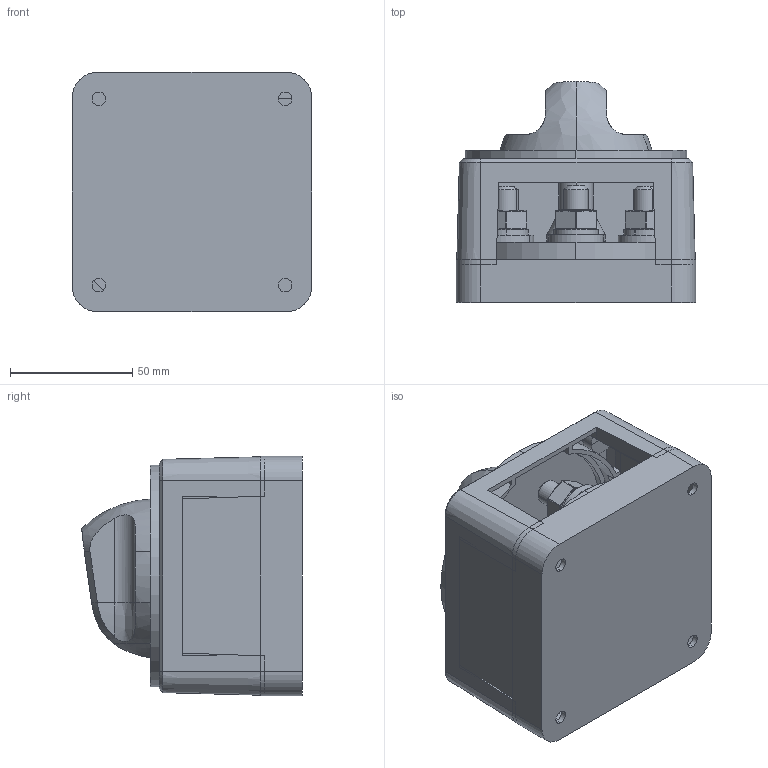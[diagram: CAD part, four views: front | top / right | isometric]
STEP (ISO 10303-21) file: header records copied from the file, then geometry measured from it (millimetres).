
FILE_DESCRIPTION (( 'STEP AP214' ), '1' );
FILE_NAME ('771-S-EZ Customer Model.STEP', '2020-07-29T01:15:47', ( '' ), ( '' ), 'SwSTEP 2.0', 'SolidWorks 2018', '' );
FILE_SCHEMA (( 'AUTOMOTIVE_DESIGN' ));
Length unit declared in the file: millimetre
Products named in the file (12): MSPM-174_77X-TERM-PLATE-SEL-EZ; MSPM-176_77X-SHAFT-EZ-KNOB; MSPM-181_77X-EZ-MAIN-COVER; 771-S-EZ Customer Model; MSPM-180_77X-EZ-MOUNTING-BODY; MSC-173_M10_SPRING-LOCK-WASHER; MSC-161_M10-TERMINAL_RIVETED; MSPM-182_77X-EZ-COVER-FASTENER; MSPM-179_77X-EZ-SIDE-PANEL; MSPM-151_77X-KNOB-RED1; MSPM-178COMP_77X-SEL-EZ-TMPTASS_ASM; MSC-174_M10-NUT-DIN934
Assembly tree (20 placements, depth 3):
  771-S-EZ Customer Model
    MSPM-180_77X-EZ-MOUNTING-BODY
    MSPM-178COMP_77X-SEL-EZ-TMPTASS_ASM
      MSPM-174_77X-TERM-PLATE-SEL-EZ
      MSC-161_M10-TERMINAL_RIVETED  x3
      MSC-173_M10_SPRING-LOCK-WASHER  x3
      MSC-174_M10-NUT-DIN934  x3
    MSPM-181_77X-EZ-MAIN-COVER
    MSPM-182_77X-EZ-COVER-FASTENER  x2
    MSPM-176_77X-SHAFT-EZ-KNOB
    MSPM-151_77X-KNOB-RED1
    MSPM-179_77X-EZ-SIDE-PANEL  x3
Bounding box: 97.8 x 90.25 x 97.8 mm (x, y, z)
Volume: 310774.1 mm3; surface area: 125284.6 mm2
Topology: 19 solids, 19 shells, 564 faces, 1400 edges, 886 vertices
Faces by surface type: plane 271, cylinder 119, bspline 110, cone 52, torus 12
Entity records: 17118 total; most frequent: CARTESIAN_POINT 7973, ORIENTED_EDGE 1934, DIRECTION 1634, EDGE_CURVE 967, VERTEX_POINT 618, AXIS2_PLACEMENT_3D 548, LINE 538, VECTOR 538
